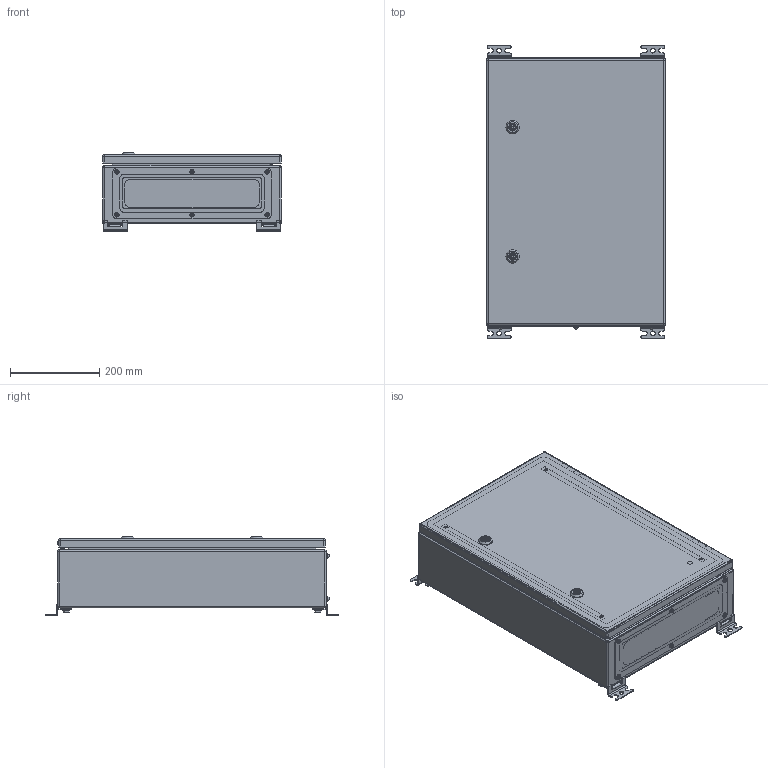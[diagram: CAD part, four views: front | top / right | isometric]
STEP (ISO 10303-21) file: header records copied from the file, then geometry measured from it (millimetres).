
FILE_DESCRIPTION(('STEP AP242'), '1');
FILE_NAME('400 ﾙﾌﾏ-1 (IP-56)', '', ('UNSPECIFIED'), ('UNSPECIFIED'), 'C3D Converter', 'C3D Toolkit', '');
FILE_SCHEMA(('AP242_MANAGED_MODEL_BASED_3D_ENGINEERING_MIM_LF { 1 0 10303 442 1 1 4 }'));
Length unit declared in the file: millimetre
Products named in the file (50): ЩМП-1-ЛФ СБ; 410-ЛФ; 420; 421; 411-Ф; 430-Л; 431-Л; 490; 491; 401; 440-Ф; 441-Ф; 402; 403; 450; 451; ЦИУЛ.210677.00.03-03; 452
Assembly tree (130 placements, depth 4):
  ЩМП-1-ЛФ СБ
    410-ЛФ
      420
        421
        (unnamed)  x6
        (unnamed)
      411-Ф
      430-Л
        431-Л
        (unnamed)  x6
    490  x2
      491
      (unnamed)
      (unnamed)
      (unnamed)
      (unnamed)
      (unnamed)
    490  x2
      491
      (unnamed)
      (unnamed)
      (unnamed)
      (unnamed)
      (unnamed)
    401
    (unnamed)  x6
    (unnamed)  x6
    (unnamed)  x6
    (unnamed)  x2
      (unnamed)
      (unnamed)
      (unnamed)
    (unnamed)  x10
    440-Ф
      441-Ф
      (unnamed)
      (unnamed)  x4
      (unnamed)  x2
    402  x2
    (unnamed)  x4
    (unnamed)  x4
    (unnamed)  x2
      (unnamed)
      (unnamed)
      (unnamed)
      (unnamed)
      (unnamed)
    (unnamed)  x2
    403
    (unnamed)  x6
    (unnamed)  x6
    450
      451
      (unnamed)  x3
      (unnamed)  x2
      (unnamed)  x2
      (unnamed)  x3
      ЦИУЛ.210677.00.03-03
      452
      (unnamed)
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Bounding box: 400 x 656 x 178.1 mm (x, y, z)
Volume: 2093991.3 mm3; surface area: 2463037.3 mm2
Topology: 141 solids, 141 shells, 2783 faces, 6612 edges, 4196 vertices
Faces by surface type: plane 1585, cylinder 781, cone 259, extrusion 54, sphere 37, torus 35, bspline 32
Full cylindrical faces by diameter (mm): 0.5 x4, 2.6 x8, 3.3 x1, 3.5 x76, 4 x1, 4.134 x9, 4.2 x5, 4.917 x4, 5 x15, 5.3 x2, 5.5 x17, 5.75 x3, 5.8 x2, 6 x24, 6.38 x6, 6.4 x10, 6.647 x10, 7 x6, 7.3 x4, 7.4 x1, 7.5 x6, 7.74 x6, 8 x16, 8.4 x10, 8.5 x25, 8.7 x6, 9 x12, 10 x16, 10.4 x2, 10.5 x6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
Entity records: 71734 total; most frequent: CARTESIAN_POINT 36018, DIRECTION 5874, ORIENTED_EDGE 5560, EDGE_CURVE 2780, AXIS2_PLACEMENT_3D 2155, VERTEX_POINT 1872, EDGE_LOOP 1654, VECTOR 1564
